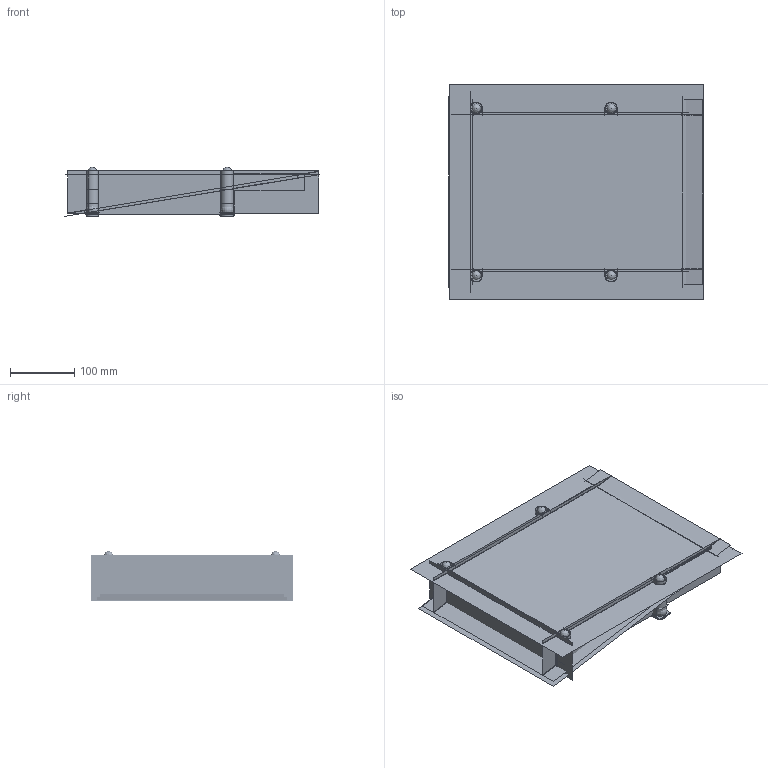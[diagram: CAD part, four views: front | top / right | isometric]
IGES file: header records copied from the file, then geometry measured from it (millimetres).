
Global section: file name: C:\Users\utente\Desktop\3d sito\SUMATRA\SUMATRA.igs; native system: Rhinoceros ( Mar  9 2011 ); preprocessor: Trout Lake IGES 012 Mar  9 2011; date: 170703.085527; units: millimetre
Bounding box: 395.72 x 335.52 x 77 mm (x, y, z)
Surface area: 618048.8 mm2 (no closed solid volume)
Topology: 0 solids, 0 shells, 255 faces, 855 edges, 710 vertices
Faces by surface type: bspline 255
